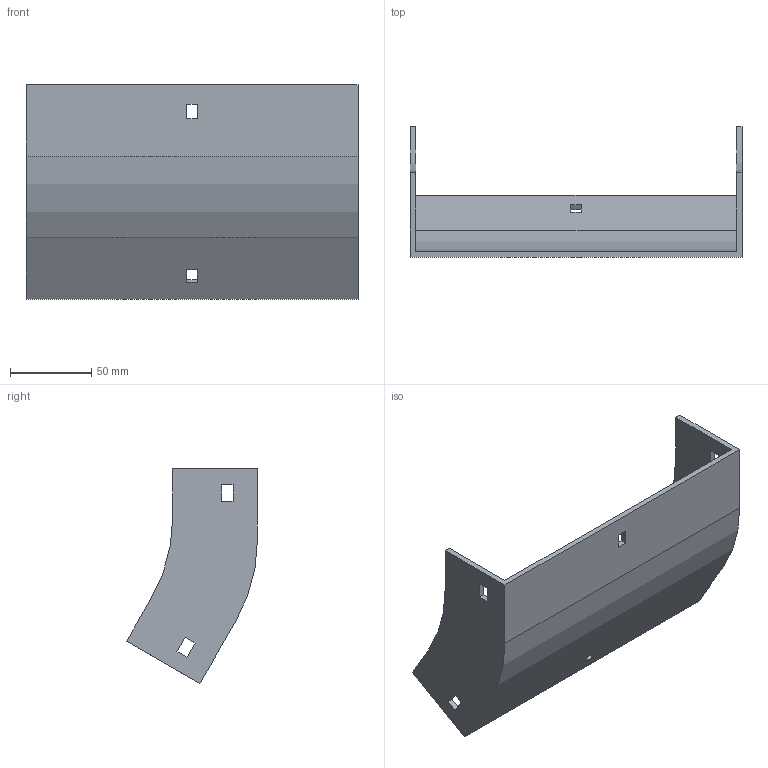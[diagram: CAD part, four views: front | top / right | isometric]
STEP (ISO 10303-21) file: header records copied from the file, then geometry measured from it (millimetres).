
FILE_DESCRIPTION (( 'STEP AP214' ), '1' );
FILE_NAME ('32F1B200.step', '2025-02-21T12:58:05', ( '' ), ( '' ), 'SwSTEP 2.0', 'SolidWorks 2023', '' );
FILE_SCHEMA (( 'AUTOMOTIVE_DESIGN' ));
Length unit declared in the file: millimetre
Products named in the file (1): 32F1B200
Bounding box: 204 x 80.4 x 131.98 mm (x, y, z)
Volume: 141083.4 mm3; surface area: 84212 mm2
Topology: 1 solids, 1 shells, 42 faces, 120 edges, 80 vertices
Faces by surface type: plane 38, cylinder 4
Entity records: 1399 total; most frequent: CARTESIAN_POINT 243, ORIENTED_EDGE 240, DIRECTION 214, EDGE_CURVE 120, VECTOR 112, LINE 112, VERTEX_POINT 80, EDGE_LOOP 54
